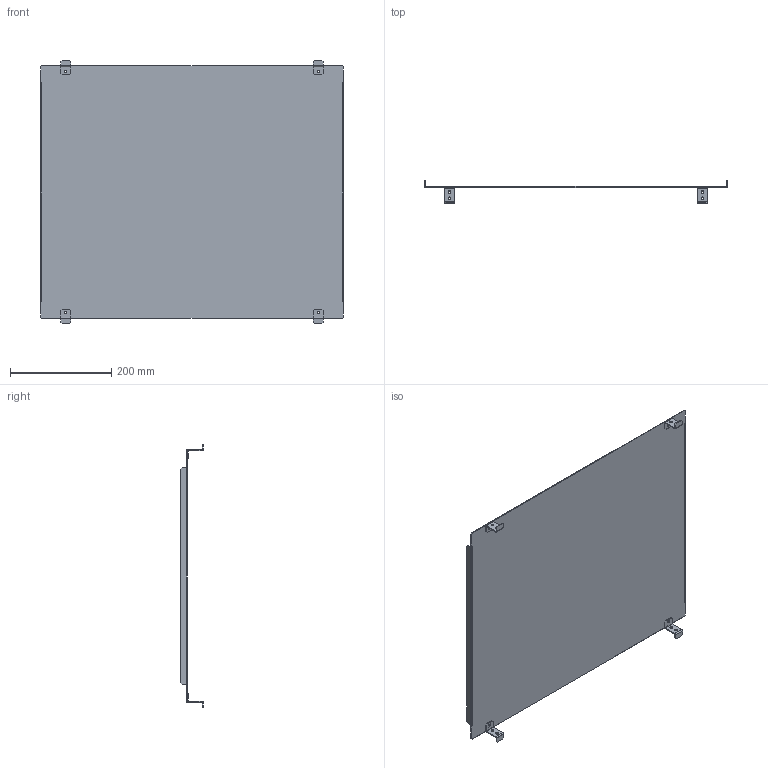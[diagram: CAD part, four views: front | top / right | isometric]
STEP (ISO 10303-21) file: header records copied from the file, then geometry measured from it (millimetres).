
FILE_DESCRIPTION(('CAx-IF Rec.Pracs.---Model Styling and Organization---1.2---2011-12-15','CAx-IF Rec.Pracs.---Geometric and Assembly Validation Properties---4.1---2014-06-16','CAx-IF Rec.Pracs.---PMI Polyline Presentation---2.0---2013-05-24'),'2;1');
FILE_NAME('R5SBPW66.stp','2021-05-06T03:04:25+03:00',(''),(''),'STEP Interface 4.4 by CT CoreTechnologie','3D_Evolution4.4 by CT CoreTechnologie','');
FILE_SCHEMA(('AUTOMOTIVE_DESIGN { 1 0 10303 214 1 1 1 1 }'));
Length unit declared in the file: millimetre
Products named in the file (3): R5SBPW66; RB.0532.00.00.0_-06; RB.0521.00.00.0_-00
Assembly tree (5 placements, depth 2):
  R5SBPW66
    RB.0532.00.00.0_-06
    RB.0521.00.00.0_-00  x4
Bounding box: 599 x 45 x 522 mm (x, y, z)
Surface area: 630484.9 mm2 (no closed solid volume)
Topology: 0 solids, 5 shells, 162 faces, 440 edges, 288 vertices
Faces by surface type: plane 106, cylinder 56
Entity records: 2906 total; most frequent: CARTESIAN_POINT 482, ORIENTED_EDGE 472, DIRECTION 468, EDGE_CURVE 236, VECTOR 184, LINE 184, VERTEX_POINT 156, AXIS2_PLACEMENT_3D 142
